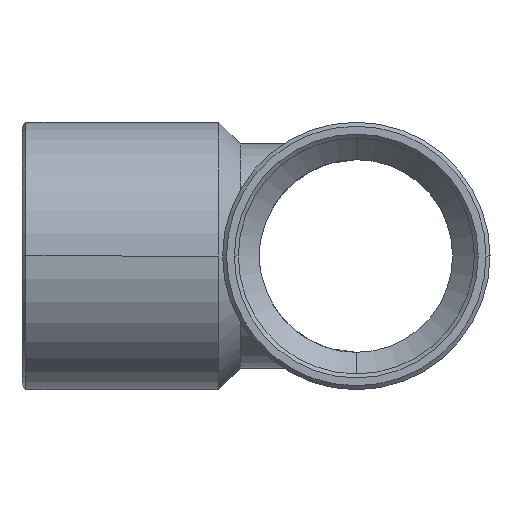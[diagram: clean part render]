
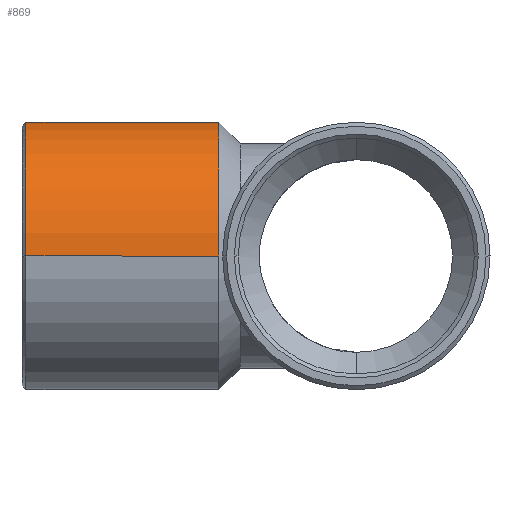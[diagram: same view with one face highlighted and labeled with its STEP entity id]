
A CAD part, left-side view. The second image highlights one B-rep face of the part: STEP entity #869.
In plain terms, the highlighted cylindrical face has radius 6.8 mm (diameter 13.6 mm), a partial arc.
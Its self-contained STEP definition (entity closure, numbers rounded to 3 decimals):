
#179=CARTESIAN_POINT('',(6.8,7.,0.));
#180=VERTEX_POINT('',#179);
#188=CARTESIAN_POINT('',(0.,7.0,6.8));
#189=VERTEX_POINT('',#188);
#190=CARTESIAN_POINT('',(0.,7.0,0.0));
#191=DIRECTION('',(0.0,1.0,0.0));
#192=DIRECTION('',(-1.0,0.0,0.0));
#193=AXIS2_PLACEMENT_3D('',#190,#191,#192);
#194=CIRCLE('',#193,6.8);
#195=EDGE_CURVE('',#189,#180,#194,.T.);
#829=CARTESIAN_POINT('',(0.,12.,0.0));
#830=DIRECTION('',(0.,1.0,0.0));
#831=DIRECTION('',(-1.0,0.0,0.0));
#832=AXIS2_PLACEMENT_3D('',#829,#830,#831);
#833=CYLINDRICAL_SURFACE('',#832,6.8);
#834=CARTESIAN_POINT('',(-6.8,7.,0.0));
#835=VERTEX_POINT('',#834);
#836=CARTESIAN_POINT('',(-6.8,16.8,0.));
#837=VERTEX_POINT('',#836);
#838=CARTESIAN_POINT('',(-6.8,7.,0.0));
#839=DIRECTION('',(0.0,1.0,0.0));
#840=VECTOR('',#839,9.8);
#841=LINE('',#838,#840);
#842=EDGE_CURVE('',#835,#837,#841,.T.);
#843=ORIENTED_EDGE('',*,*,#842,.F.);
#844=CARTESIAN_POINT('',(0.,7.0,0.0));
#845=DIRECTION('',(0.0,1.0,0.0));
#846=DIRECTION('',(-1.0,0.0,0.0));
#847=AXIS2_PLACEMENT_3D('',#844,#845,#846);
#848=CIRCLE('',#847,6.8);
#849=EDGE_CURVE('',#835,#189,#848,.T.);
#850=ORIENTED_EDGE('',*,*,#849,.T.);
#851=ORIENTED_EDGE('',*,*,#195,.T.);
#852=CARTESIAN_POINT('',(6.8,16.8,0.));
#853=VERTEX_POINT('',#852);
#854=CARTESIAN_POINT('',(6.8,16.8,0.));
#855=DIRECTION('',(0.0,-1.0,0.0));
#856=VECTOR('',#855,9.8);
#857=LINE('',#854,#856);
#858=EDGE_CURVE('',#853,#180,#857,.T.);
#859=ORIENTED_EDGE('',*,*,#858,.F.);
#860=CARTESIAN_POINT('',(0.,16.8,0.0));
#861=DIRECTION('',(0.0,1.0,0.0));
#862=DIRECTION('',(1.0,0.0,0.0));
#863=AXIS2_PLACEMENT_3D('',#860,#861,#862);
#864=CIRCLE('',#863,6.8);
#865=EDGE_CURVE('',#837,#853,#864,.T.);
#866=ORIENTED_EDGE('',*,*,#865,.F.);
#867=EDGE_LOOP('',(#843,#850,#851,#859,#866));
#868=FACE_OUTER_BOUND('',#867,.T.);
#869=ADVANCED_FACE('',(#868),#833,.T.);
